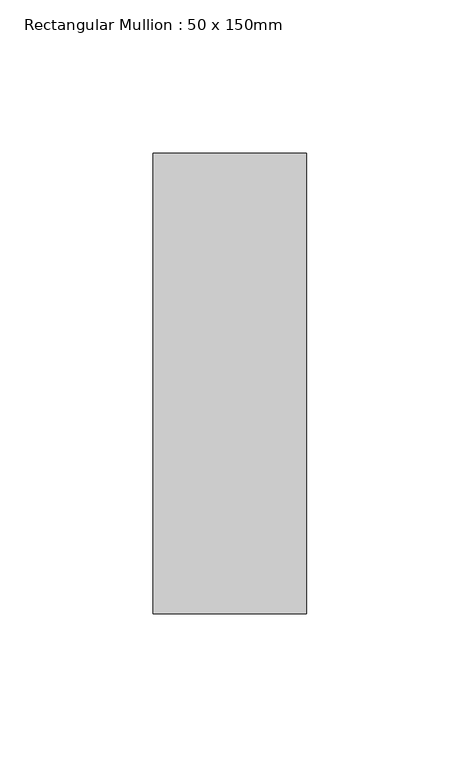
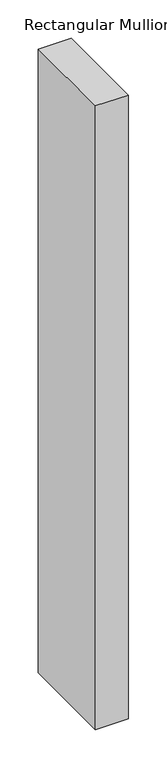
"""IFC4 building model written with IfcOpenShell, lengths in millimetres: member geometry, Rectangular Mullion : 50 x 150mm."""

from ifc_helpers import new_model, si_unit, frame, origin, place, context, project, spatial, polyline, outline, extrude, source, transform, mapped, element, save


def rectangular_mullion_50_x_150mm_43357c11(model_context):
    return source(origin(), model_context, "Body", "SweptSolid", [
        extrude(outline(polyline([(0.0, 75.0), (0.0, -75.0), (-50.0, -75.0), (-50.0, 75.0), (0.0, 75.0)])), frame((0.0, 0.0, -997.6280605), z_axis=(0.0, 0.0, 1.0), x_axis=(1.0, 0.0, 0.0)), (0.0, 0.0, 1.0), 997.6280605),
    ])


if __name__ == "__main__":
    model = new_model("IFC4")
    model_context = context("Model", 3, world=origin())
    ifc_project = project(units=[si_unit("LENGTHUNIT", "METRE", prefix="MILLI")], contexts=[model_context])
    site = spatial("IfcSite", under=ifc_project)
    building = spatial("IfcBuilding", under=site)
    placement = place(None, origin())
    rectangular_mullion_50_x_150mm_shape = rectangular_mullion_50_x_150mm_43357c11(model_context)
    element("IfcMember", 1, ObjectType="Rectangular Mullion : 50 x 150mm", at=placement, inside=building, context=model_context, shape_type="MappedRepresentation", body=[
        mapped(rectangular_mullion_50_x_150mm_shape, transform((0.0, 0.0, 0.0), x_axis=(1.0, 0.0, 0.0), y_axis=(0.0, 1.0, 0.0), z_axis=(0.0, 0.0, 1.0))),
    ])
    save(model, "model.ifc")
